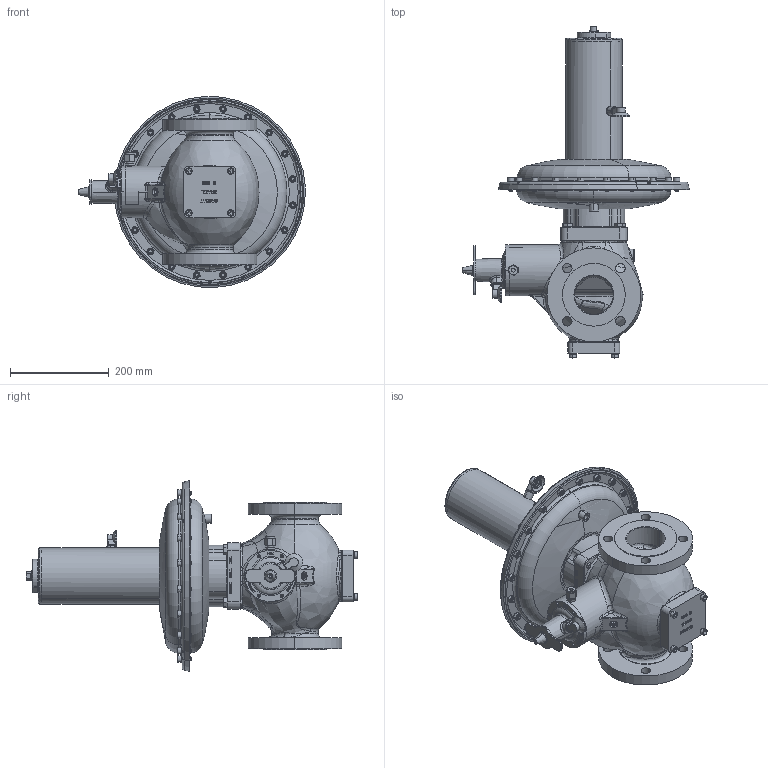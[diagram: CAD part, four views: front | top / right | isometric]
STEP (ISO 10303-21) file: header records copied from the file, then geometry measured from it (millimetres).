
FILE_DESCRIPTION((''),'2;1');
FILE_NAME('ASM0001_ASM','2018-10-04T',('jjunior'),(''),'PRO/ENGINEER BY PARAMETRIC TECHNOLOGY CORPORATION, 2010160','PRO/ENGINEER BY PARAMETRIC TECHNOLOGY CORPORATION, 2010160','');
FILE_SCHEMA(('CONFIG_CONTROL_DESIGN'));
Length unit declared in the file: millimetre
Products named in the file (1): ASM0001_ASM
Bounding box: 459.03 x 672.2 x 386.66 mm (x, y, z)
Volume: 5348850.2 mm3; surface area: 1467161.3 mm2
Topology: 4 solids, 16 shells, 4035 faces, 9936 edges, 6170 vertices
Faces by surface type: plane 2020, cylinder 819, cone 644, torus 276, bspline 251, sphere 20, extrusion 5
Entity records: 137543 total; most frequent: CARTESIAN_POINT 44619, ORIENTED_EDGE 19762, DIRECTION 18432, EDGE_CURVE 9881, AXIS2_PLACEMENT_3D 6464, VERTEX_POINT 6170, VECTOR 5504, LINE 5499
